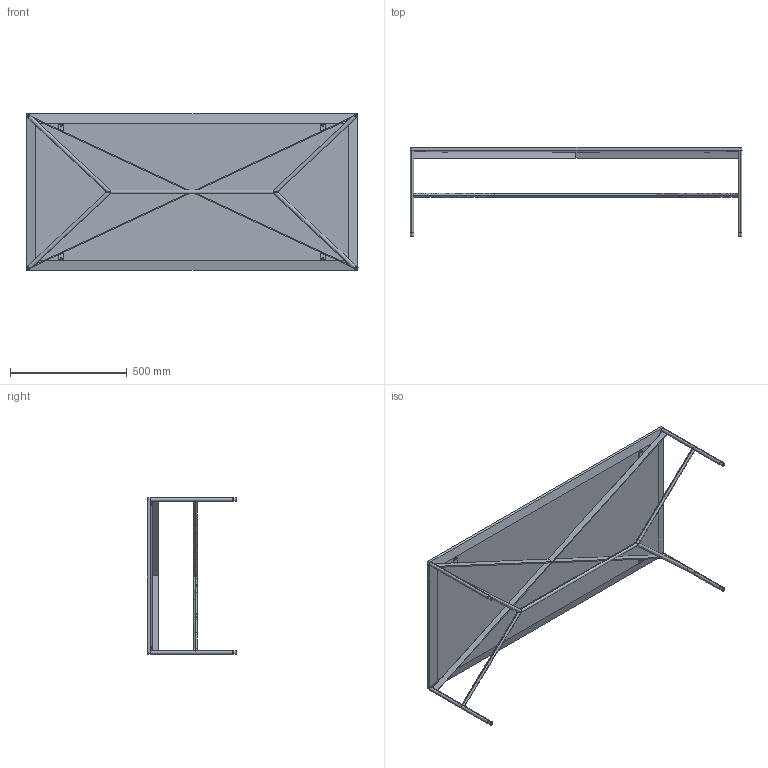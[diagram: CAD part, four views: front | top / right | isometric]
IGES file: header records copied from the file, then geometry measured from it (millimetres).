
Start section: SolidWorks IGES file using analytic representation for surfaces
Global section: file name: W:\design\GORDON GUILLAUMIER\Chill-Out\modelli 3d aggiornati\tavolo 142x67.IGS; native system: SolidWorks 2010; preprocessor: SolidWorks 2010; author: PC20; date: 140714.194350; units: millimetre
Bounding box: 1420 x 382 x 670 mm (x, y, z)
Surface area: 2467830.5 mm2 (no closed solid volume)
Topology: 0 solids, 0 shells, 210 faces, 5728 edges, 6648 vertices
Faces by surface type: revolution 112, bspline 98
